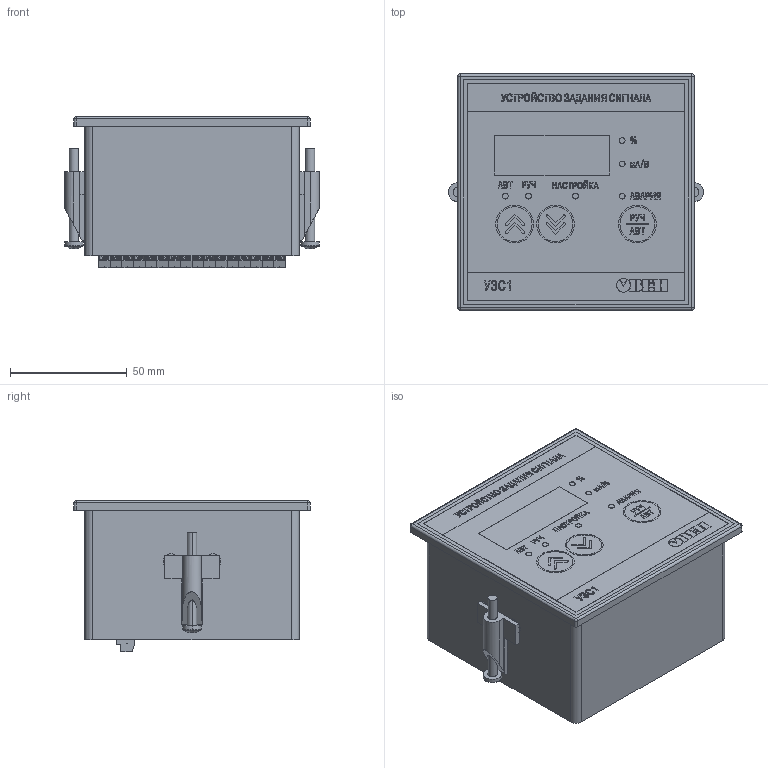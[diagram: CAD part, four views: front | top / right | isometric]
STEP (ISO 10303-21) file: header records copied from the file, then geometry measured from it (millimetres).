
FILE_DESCRIPTION (( 'STEP AP214' ), '1' );
FILE_NAME ('3D Ìîäåëü ÓÇÑ1-Ù1.STEP', '2017-03-29T16:43:56', ( '' ), ( '' ), 'SwSTEP 2.0', 'SolidWorks 2014', '' );
FILE_SCHEMA (( 'AUTOMOTIVE_DESIGN' ));
Length unit declared in the file: millimetre
Products named in the file (7): 3D Ìîäåëü ÓÇÑ1-Ù1; Ïàíåëü ëèöåâàÿ ÓÇÑ1; Êëåììà íèçêàÿ_11õ8õ5ìì; pan cross head_am_B18.6.7M - M4 x 0.7 x 40 Type I Cross Recessed PHMS --40N; Ñòîïîð âèíòîâîé_÷; Óïëîòíèòåëü Ù1; Êîðïóñ Ù1 (îäíîðÿä)
Assembly tree (23 placements, depth 2):
  3D Ìîäåëü ÓÇÑ1-Ù1
    Êîðïóñ Ù1 (îäíîðÿä)
    Óïëîòíèòåëü Ù1
    Ñòîïîð âèíòîâîé_÷  x2
    pan cross head_am_B18.6.7M - M4 x 0.7 x 40 Type I Cross Recessed PHMS --40N  x2
    Êëåììà íèçêàÿ_11õ8õ5ìì  x16
    Ïàíåëü ëèöåâàÿ ÓÇÑ1
Bounding box: 109 x 101 x 64.75 mm (x, y, z)
Volume: 512297.9 mm3; surface area: 79079.2 mm2
Topology: 23 solids, 23 shells, 2191 faces, 5738 edges, 3788 vertices
Faces by surface type: plane 1354, bspline 640, cylinder 185, sphere 8, torus 4
Entity records: 66333 total; most frequent: CARTESIAN_POINT 17091, ORIENTED_EDGE 8106, DIRECTION 4699, EDGE_CURVE 4053, VERTEX_POINT 2692, LINE 2635, VECTOR 2635, EDGE_LOOP 1653
